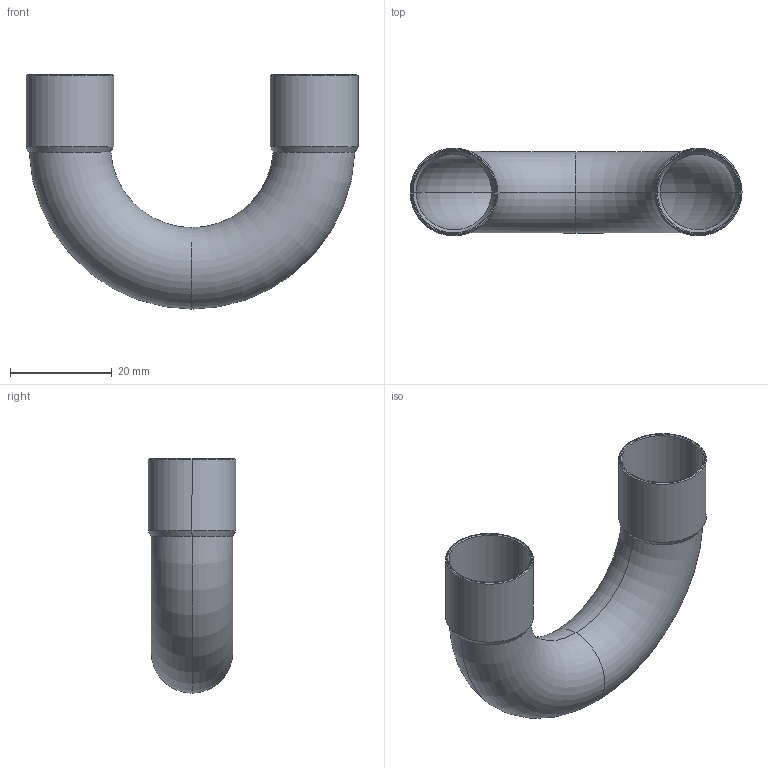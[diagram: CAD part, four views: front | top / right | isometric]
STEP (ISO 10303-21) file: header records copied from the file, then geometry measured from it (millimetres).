
FILE_DESCRIPTION((''),'2;1');
FILE_NAME('C:\sanha_work\5130\f\1506016.stp','2005-10-21T17:22:36',('Kris'),(''),'Autodesk Inventor 8','Autodesk Inventor 8','');
FILE_SCHEMA(('AUTOMOTIVE_DESIGN { 1 0 10303 214 1 1 1 1 }'));
Length unit declared in the file: millimetre
Products named in the file (1): 1506016
Bounding box: 65.2 x 17.2 x 46 mm (x, y, z)
Volume: 3072.9 mm3; surface area: 10295.1 mm2
Topology: 1 solids, 1 shells, 34 faces, 68 edges, 36 vertices
Faces by surface type: cone 12, bspline 9, torus 8, cylinder 4, plane 1
Entity records: 1131 total; most frequent: CARTESIAN_POINT 430, DIRECTION 148, ORIENTED_EDGE 136, EDGE_CURVE 68, AXIS2_PLACEMENT_3D 62, VERTEX_POINT 36, CIRCLE 36, EDGE_LOOP 36
